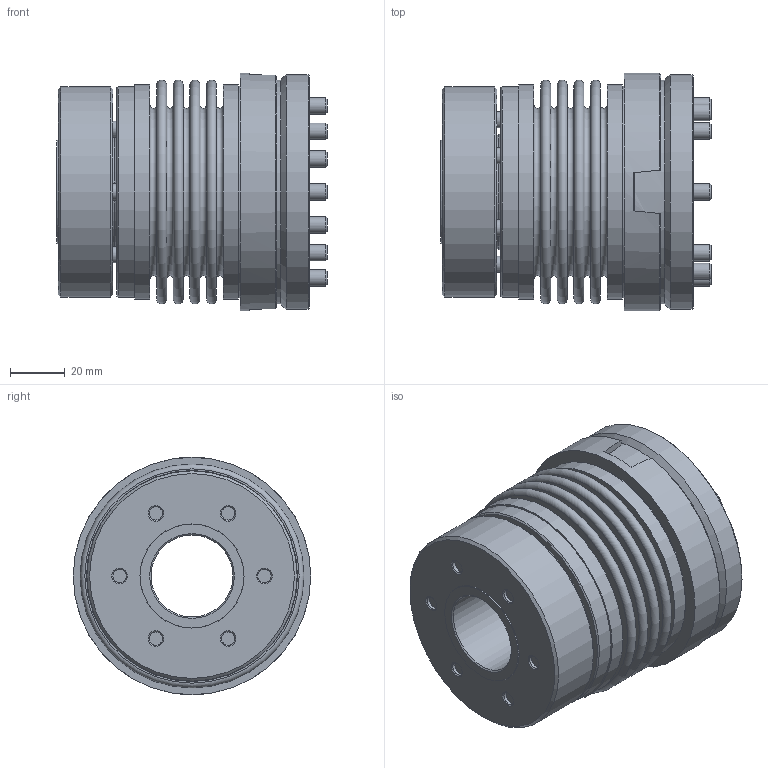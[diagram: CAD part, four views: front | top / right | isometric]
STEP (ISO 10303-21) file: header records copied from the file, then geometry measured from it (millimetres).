
FILE_DESCRIPTION( ( 'Unknown' ), '1' );
FILE_NAME( 'F:/JAKOB-STEP+IGES-Dateien/STEP-Dateien/KPP-F/KPP-F 200.stp', 'Unknown', ( 'Unknown' ), ( 'Unknown' ), 'PSStep 10.1', 'Unknown', ' ' );
FILE_SCHEMA( ( 'AUTOMOTIVE_DESIGN { 1 0 10303 214 1 1 1 1 }' ) );
Length unit declared in the file: millimetre
Products named in the file (1): 28521463
Bounding box: 98.99 x 87 x 87 mm (x, y, z)
Volume: 243074.5 mm3; surface area: 119304.6 mm2
Topology: 1 solids, 1 shells, 547 faces, 1225 edges, 778 vertices
Faces by surface type: plane 345, cylinder 112, cone 51, torus 39
Full cylindrical faces by diameter (mm): 4.917 x10, 6 x18, 6.4 x18, 7.5 x10, 10 x18, 10.5 x18, 30 x1, 42 x1, 45 x1, 77 x1, 77.3 x2, 78.5 x2, 80 x1, 82 x1, 86 x1, 87 x1
Entity records: 18020 total; most frequent: DIRECTION 2502, CARTESIAN_POINT 2228, ORIENTED_EDGE 1900, AXIS2_PLACEMENT_3D 1008, EDGE_CURVE 950, EDGE_LOOP 880, VERTEX_POINT 710, FACE_OUTER_BOUND 688
